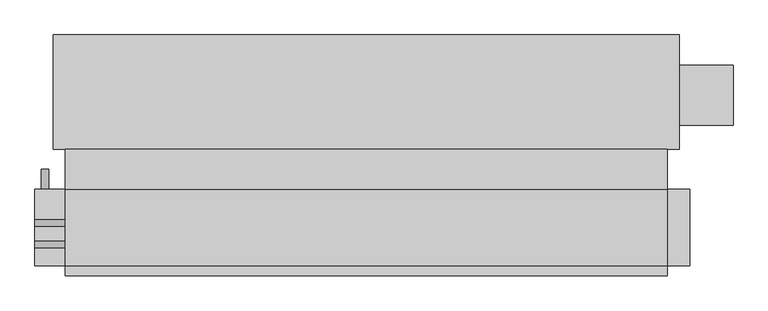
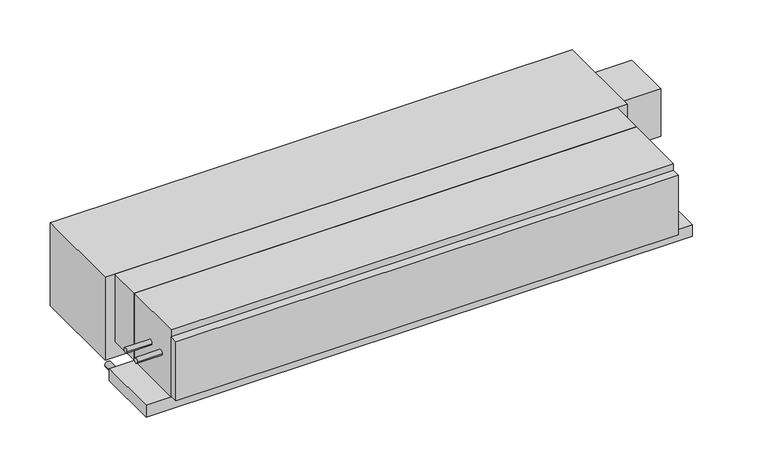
"""IFC4 building model written with IfcOpenShell, lengths in millimetres: proxy geometry, Concealed_Horizontal_Fan_Coil_Unit_With_Plenum_-_42CEA_-_CARRIER_-_2-Pipe_Cool-EHeat_LH_2022 : Size 12 - 277v/60Hz/1Ph - 4 Row 10.0kW."""

from ifc_helpers import new_model, si_unit, point, frame, frame_2d, origin, place, context, project, spatial, polyline, circle_curve, trimmed, segment, composite_curve, outline, extrude, source, transform, mapped, element, save


def mechanical_equipment_ed98e714(model_context):
    return source(origin(), model_context, "Body", "SweptSolid", [
        extrude(outline(composite_curve([segment(trimmed(circle_curve(frame_2d((-280.9875, -104.775)), 7.9375), [point((-288.925, -104.775))], [point((-273.05, -104.775))], False, "CARTESIAN"), True, "CONTINUOUS"), segment(trimmed(circle_curve(frame_2d((-280.9875, -104.775)), 7.9375), [point((-273.05, -104.775))], [point((-288.925, -104.775))], False, "CARTESIAN"), True, "CONTINUOUS")], self_intersect=False)), frame((-685.8, 0.0, 0.0), z_axis=(1.0, 0.0, 0.0), x_axis=(0.0, 1.0, 0.0)), (0.0, 0.0, 1.0), 76.2),
        extrude(outline(composite_curve([segment(trimmed(circle_curve(frame_2d((-227.0125, -104.775)), 7.9375), [point((-234.95, -104.775))], [point((-219.075, -104.775))], False, "CARTESIAN"), True, "CONTINUOUS"), segment(trimmed(circle_curve(frame_2d((-227.0125, -104.775)), 7.9375), [point((-219.075, -104.775))], [point((-234.95, -104.775))], False, "CARTESIAN"), True, "CONTINUOUS")], self_intersect=False)), frame((-685.8, 0.0, 0.0), z_axis=(1.0, 0.0, 0.0), x_axis=(0.0, 1.0, 0.0)), (0.0, 0.0, 1.0), 76.2),
        extrude(outline(composite_curve([segment(trimmed(circle_curve(frame_2d((-241.3, -660.4)), 9.525), [point((-241.3, -669.925))], [point((-241.3, -650.875))], False, "CARTESIAN"), True, "CONTINUOUS"), segment(trimmed(circle_curve(frame_2d((-241.3, -660.4)), 9.525), [point((-241.3, -650.875))], [point((-241.3, -669.925))], False, "CARTESIAN"), True, "CONTINUOUS")], self_intersect=False)), frame((0.0, -141.2875, 0.0), z_axis=(0.0, 1.0, 0.0), x_axis=(0.0, 0.0, 1.0)), (0.0, 0.0, 1.0), 50.8),
        extrude(outline(polyline([(-609.6, -39.6875), (914.4, -39.6875), (914.4, -141.2875), (-609.6, -141.2875), (-609.6, -39.6875)])), frame((0.0, 0.0, -215.9), z_axis=(0.0, 0.0, 1.0), x_axis=(1.0, 0.0, 0.0)), (0.0, 0.0, 1.0), 215.9),
        extrude(outline(polyline([(914.4, -360.3625), (-609.6, -360.3625), (-609.6, -334.9625), (914.4, -334.9625), (914.4, -360.3625)])), frame((0.0, 0.0, -212.725), z_axis=(0.0, 0.0, 1.0), x_axis=(1.0, 0.0, 0.0)), (0.0, 0.0, 1.0), 190.5),
        extrude(outline(polyline([(1081.0875, 173.0375), (1081.0875, 20.6375), (944.5625, 20.6375), (944.5625, 173.0375), (1081.0875, 173.0375)])), frame((0.0, 0.0, -187.325), z_axis=(0.0, 0.0, 1.0), x_axis=(1.0, 0.0, 0.0)), (0.0, 0.0, 1.0), 152.4),
        extrude(outline(polyline([(-639.7625, 249.2375), (944.5625, 249.2375), (944.5625, -39.6875), (-639.7625, -39.6875), (-639.7625, 249.2375)])), frame((0.0, 0.0, -266.7), z_axis=(0.0, 0.0, 1.0), x_axis=(1.0, 0.0, 0.0)), (0.0, 0.0, 1.0), 266.7),
        extrude(outline(polyline([(914.4, -141.2875), (914.4, -334.9625), (-609.6, -334.9625), (-609.6, -141.2875), (914.4, -141.2875)])), frame((0.0, 0.0, -215.9), z_axis=(0.0, 0.0, 1.0), x_axis=(1.0, 0.0, 0.0)), (0.0, 0.0, 1.0), 215.9),
        extrude(outline(polyline([(971.55, -141.2875), (971.55, -334.9625), (-685.8, -334.9625), (-685.8, -141.2875), (971.55, -141.2875)])), frame((0.0, 0.0, -254.0), z_axis=(0.0, 0.0, 1.0), x_axis=(1.0, 0.0, 0.0)), (0.0, 0.0, 1.0), 38.1),
    ])


if __name__ == "__main__":
    model = new_model("IFC4")
    model_context = context("Model", 3, world=origin())
    ifc_project = project(units=[si_unit("LENGTHUNIT", "METRE", prefix="MILLI")], contexts=[model_context])
    site = spatial("IfcSite", under=ifc_project)
    building = spatial("IfcBuilding", under=site)
    placement = place(None, origin())
    mechanical_equipment_shape = mechanical_equipment_ed98e714(model_context)
    element("IfcBuildingElementProxy", 1, Name="Concealed_Horizontal_Fan_Coil_Unit_With_Plenum_-_42CEA_-_CARRIER_-_2-Pipe_Cool-EHeat_LH_2022 : Size 12 - 277v/60Hz/1Ph - 4 Row 10.0kW", ObjectType="Concealed_Horizontal_Fan_Coil_Unit_With_Plenum_-_42CEA_-_CARRIER_-_2-Pipe_Cool-EHeat_LH_2022 : Size 12 - 277v/60Hz/1Ph - 4 Row 10.0kW", at=placement, inside=building, context=model_context, shape_type="MappedRepresentation", body=[
        mapped(mechanical_equipment_shape, transform((0.0, 0.0, 0.0), x_axis=(1.0, 0.0, 0.0), y_axis=(0.0, 1.0, 0.0), z_axis=(0.0, 0.0, 1.0))),
    ])
    save(model, "model.ifc")
